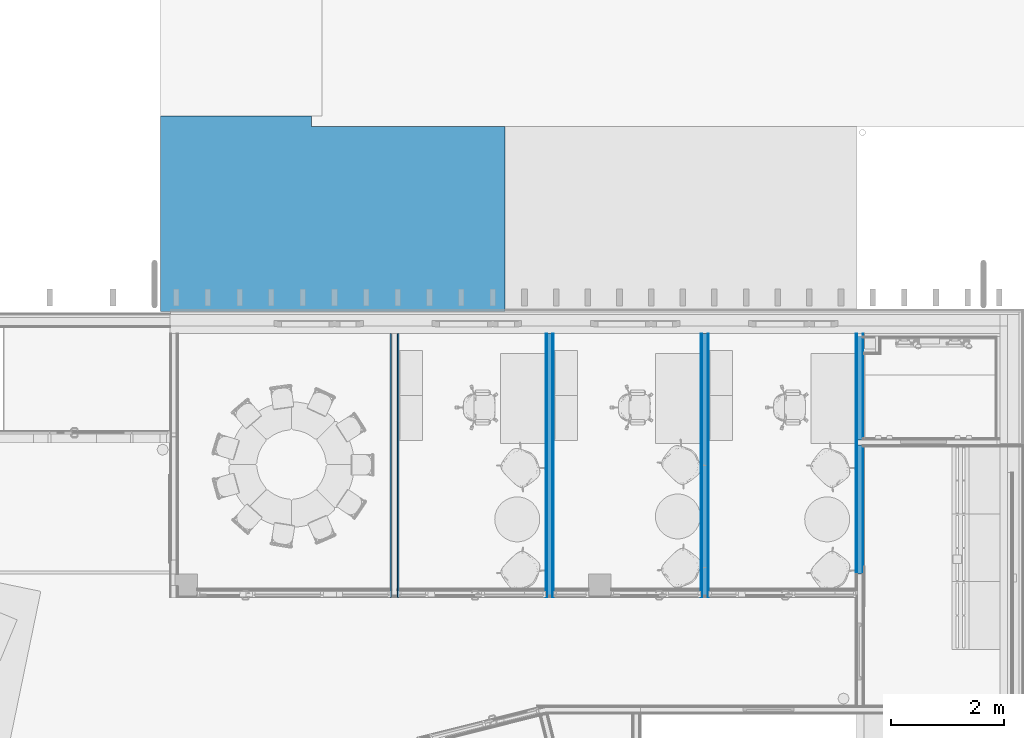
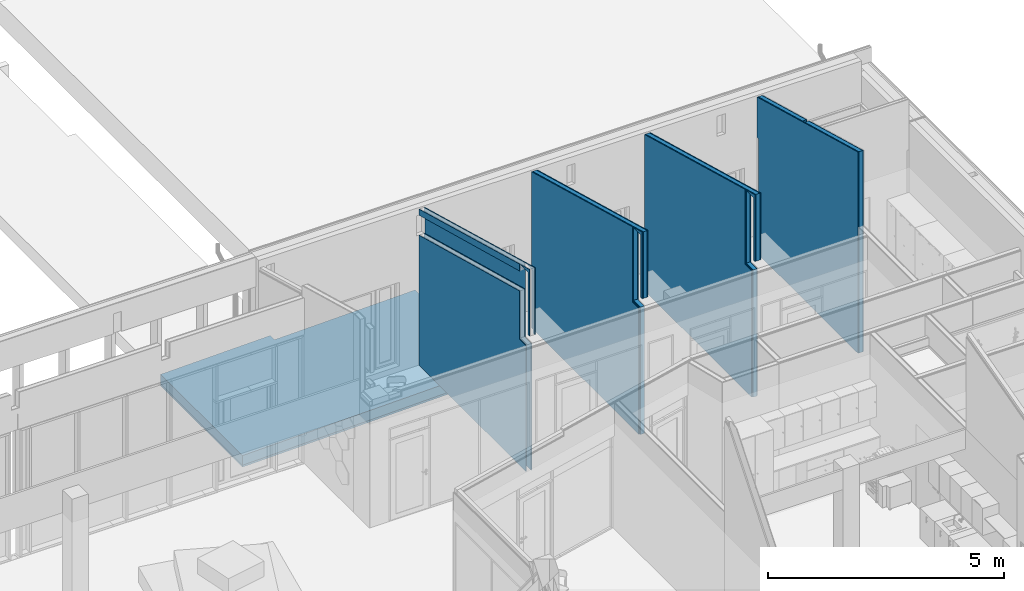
# One storey, part 87 of 153: 19 building element parts, 5 elements without a shape of their own.
"""IFC2X3 building model written with IfcOpenShell, lengths in millimetres."""

from ifc_helpers import new_model, entity, si_unit, converted_unit, derived_unit, money_unit, direction, frame, origin_with_axes, place, context, subcontext, project, spatial, faceted_brep, material, type_object, element, aggregate, save


model = new_model("IFC2X3")

# Units and contexts
model_context = context("Model", 3, precision=0.01, world=origin_with_axes(), true_north=direction((0.0, 1.0)))
body_context = subcontext(model_context, "Body", "Model", "MODEL_VIEW")
ifc_project = project(units=[si_unit("LENGTHUNIT", "METRE", prefix="MILLI"), si_unit("AREAUNIT", "SQUARE_METRE"), si_unit("VOLUMEUNIT", "CUBIC_METRE"), converted_unit("PLANEANGLEUNIT", "DEGREE", entity("IfcPlaneAngleMeasure", 0.0174532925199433), si_unit("PLANEANGLEUNIT", "RADIAN"), dimensions=[0, 0, 0, 0, 0, 0, 0]), money_unit("EUR"), converted_unit("TIMEUNIT", "Year", entity("IfcTimeMeasure", 31557600.0), si_unit("TIMEUNIT", "SECOND"), dimensions=[0, 0, 1, 0, 0, 0, 0]), si_unit("MASSUNIT", "GRAM", prefix="KILO"), si_unit("THERMODYNAMICTEMPERATUREUNIT", "DEGREE_CELSIUS"), si_unit("LUMINOUSINTENSITYUNIT", "LUMEN"), si_unit("ENERGYUNIT", "JOULE", prefix="MEGA"), derived_unit("THERMALCONDUCTANCEUNIT", [(si_unit("POWERUNIT", "WATT"), 1), (si_unit("LENGTHUNIT", "METRE"), -1), (si_unit("THERMODYNAMICTEMPERATUREUNIT", "KELVIN"), -1)]), derived_unit("SPECIFICHEATCAPACITYUNIT", [(si_unit("ENERGYUNIT", "JOULE"), 1), (si_unit("MASSUNIT", "GRAM", prefix="KILO"), -1), (si_unit("THERMODYNAMICTEMPERATUREUNIT", "KELVIN"), -1)]), derived_unit("MASSDENSITYUNIT", [(si_unit("MASSUNIT", "GRAM", prefix="KILO"), 1), (si_unit("VOLUMEUNIT", "CUBIC_METRE"), -1)])], contexts=[model_context])

# Site, building, storey
site_placement = place(None, frame((0.0, 0.0, 8650.0), z_axis=(0.0, 0.0, 1.0), x_axis=(1.0, 0.0, 0.0)))
site = spatial("IfcSite", under=ifc_project, at=site_placement, Name="43301:001:0844", CompositionType="ELEMENT")
building_placement = place(site_placement, origin_with_axes())
building = spatial("IfcBuilding", under=site, at=building_placement, Name="Kuressaare Ametikooli tuulikute mehaanikute õppekorpus", CompositionType="ELEMENT")
storey_placement = place(building_placement, frame((0.0, 0.0, 4100.0), z_axis=(0.0, 0.0, 1.0), x_axis=(1.0, 0.0, 0.0)))
storey = spatial("IfcBuildingStorey", under=building, at=storey_placement, Name="2.korrus", CompositionType="ELEMENT", Elevation=4100.0)

# Wall, building element parts
wall_type = type_object("IfcWallType", Name="SS-2.2 147", PredefinedType="NOTDEFINED")
wall_1_placement = place(storey_placement, frame((122344.0683571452, 23561.0689239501, 0.0), z_axis=(0.0, 0.0, 1.0), x_axis=(0.0, 1.0, 0.0)))
wall_1 = element("IfcWall", 1, at=wall_1_placement, inside=storey, type_object=wall_type, Name="Sisesein")
ifc_material_1 = material(Name="Kipsplaat")
building_element_part_1_placement = place(wall_1_placement, origin_with_axes())
building_element_part_1 = element("IfcBuildingElementPart", 2, at=building_element_part_1_placement, material=ifc_material_1, Name="Kipsplaat", context=body_context, shape_type="Brep", body=[
    faceted_brep([(4683.000000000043, 25.99999999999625, 0.0), (4683.000000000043, 25.99999999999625, 3363.212438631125), (4683.000000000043, 13.00000000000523, 3363.212438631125), (4683.000000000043, 13.00000000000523, 0.0), (412.9994132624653, 25.99999999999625, 3275.712739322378), (413.0000000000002, 25.99999999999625, 4507.355061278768), (134.0000000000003, 25.99999999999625, 0.0), (134.0000000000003, 25.99999999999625, 3275.712739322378), (413.0000000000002, 13.00000000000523, 4507.355061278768), (412.999413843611, 13.00000000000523, 3275.712739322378), (134.0000000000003, 13.00000000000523, 3275.712739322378), (134.0000000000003, 13.00000000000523, 0.0)], [[[0, 1, 2, 3]], [[4, 5, 1, 0, 6, 7]], [[5, 8, 2, 1]], [[3, 2, 8, 9, 10, 11]], [[6, 0, 3, 11]], [[9, 8, 5, 4]], [[6, 11, 10, 7]], [[4, 7, 10, 9]]]),
    faceted_brep([(4683.000000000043, 25.99999999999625, 4037.106487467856), (4683.000000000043, 13.00000000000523, 4037.106486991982), (4683.000000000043, 13.00000000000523, 3880.850515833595), (4683.000000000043, 25.99999999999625, 3880.850515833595), (412.9937006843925, 12.99999999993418, 5203.806565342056), (412.9936933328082, 25.99999999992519, 5203.806567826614), (0.0, 25.99999999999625, 5316.649439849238), (0.0, 13.00000000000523, 5316.649439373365), (413.0000000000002, 13.00000000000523, 5024.993138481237), (413.0000000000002, 25.99999999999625, 5024.993138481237), (67.99320075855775, 25.99999999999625, 5203.804765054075), (67.99320075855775, 25.99999999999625, 3590.712739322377), (0.0, 25.99999999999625, 3590.712739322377), (0.0, 13.00000000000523, 3590.712739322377), (67.99320878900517, 13.00000000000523, 3590.712739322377), (67.99320878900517, 13.00000000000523, 5203.804765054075)], [[[0, 1, 2, 3]], [[4, 1, 0, 5, 6, 7]], [[1, 4, 8, 2]], [[9, 3, 2, 8]], [[5, 0, 3, 9]], [[6, 5, 10, 11, 12]], [[7, 6, 12, 13]], [[4, 7, 13, 14, 15]], [[5, 9, 8, 4]], [[15, 10, 5, 4]], [[10, 15, 14, 11]], [[13, 12, 11, 14]]]),
])
building_element_part_2_placement = place(wall_1_placement, origin_with_axes())
building_element_part_2 = element("IfcBuildingElementPart", 3, at=building_element_part_2_placement, material=ifc_material_1, Name="Kipsplaat", context=body_context, shape_type="Brep", body=[
    faceted_brep([(4683.000000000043, 13.00000000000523, 4037.106486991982), (4683.000000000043, 0.0, 4037.106486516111), (4683.000000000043, 0.0, 0.0), (4683.000000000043, 13.00000000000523, 0.0), (4683.000000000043, 13.00000000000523, 3363.212438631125), (4683.000000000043, 1.121785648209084, 3363.212438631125), (4683.000000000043, 1.121785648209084, 3880.850515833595), (4683.000000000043, 13.00000000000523, 3880.850515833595), (412.9937080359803, 0.0, 5203.806562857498), (412.9937006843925, 12.99999999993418, 5203.806565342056), (0.0, 13.00000000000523, 5316.649439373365), (0.0, 0.0, 5316.649438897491), (412.9994144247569, 0.0, 3260.712739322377), (146.9999999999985, 0.0, 3260.712739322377), (146.9999999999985, 0.0, 0.0), (146.9999999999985, 13.00000000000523, 0.0), (412.999413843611, 13.00000000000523, 3260.712739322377), (413.0000000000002, 13.00000000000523, 4507.355061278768), (146.9999999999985, 13.00000000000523, 3260.712739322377), (413.0000000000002, 1.121785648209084, 4507.355061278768), (413.0000000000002, 1.121785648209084, 5024.993138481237), (413.0000000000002, 13.00000000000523, 5024.993138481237), (67.99320878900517, 13.00000000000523, 5203.804765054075), (67.99320878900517, 13.00000000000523, 3590.712739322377), (0.0, 13.00000000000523, 3590.712739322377), (0.0, 0.0, 3590.712739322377), (67.99321681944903, 0.0, 3590.712739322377), (67.99321681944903, 0.0, 5203.804765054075)], [[[0, 1, 2, 3, 4, 5, 6, 7]], [[8, 1, 0, 9, 10, 11]], [[1, 8, 12, 13, 14, 2]], [[15, 3, 2, 14]], [[16, 17, 4, 3, 15, 18]], [[19, 5, 4, 17]], [[20, 6, 5, 19]], [[21, 7, 6, 20]], [[9, 0, 7, 21]], [[10, 9, 22, 23, 24]], [[11, 10, 24, 25]], [[8, 11, 25, 26, 27]], [[20, 19, 17, 16, 12, 8, 9, 21]], [[16, 18, 13, 12]], [[15, 14, 13, 18]], [[27, 22, 9, 8]], [[22, 27, 26, 23]], [[25, 24, 23, 26]]]),
])
building_element_part_3_placement = place(wall_1_placement, origin_with_axes())
building_element_part_3 = element("IfcBuildingElementPart", 4, at=building_element_part_3_placement, material=ifc_material_1, Name="Kipsplaat", context=body_context, shape_type="Brep", body=[
    faceted_brep([(4683.000000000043, 147.0000000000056, 0.0), (4683.000000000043, 147.0000021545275, 3363.212438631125), (4683.000000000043, 134.0000000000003, 3363.212438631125), (4683.000000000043, 134.0000000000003, 0.0), (412.9994078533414, 146.9999815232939, 3260.712739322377), (413.0000000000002, 146.9999815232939, 4507.355061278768), (146.9999999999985, 147.0000000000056, 0.0), (146.9999999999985, 146.9999816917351, 3260.712739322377), (413.0000000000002, 134.0000000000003, 4507.355061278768), (412.9994084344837, 134.0000000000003, 3260.712739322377), (146.9999999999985, 134.0000000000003, 3260.712739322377), (146.9999999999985, 134.0000000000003, 0.0)], [[[0, 1, 2, 3]], [[4, 5, 1, 0, 6, 7]], [[5, 8, 2, 1]], [[3, 2, 8, 9, 10, 11]], [[6, 0, 3, 11]], [[9, 8, 5, 4]], [[6, 11, 10, 7]], [[4, 7, 10, 9]]]),
    faceted_brep([(4683.000000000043, 147.000002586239, 4037.106491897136), (4683.000000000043, 134.0000000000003, 4037.106491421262), (4683.000000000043, 134.0000000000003, 3880.850515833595), (4683.000000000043, 147.0000024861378, 3880.850515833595), (412.9936322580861, 133.9999999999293, 5203.806588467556), (412.9936249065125, 146.9999815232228, 5203.80659095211), (0.0, 146.9999815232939, 5316.649444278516), (0.0, 134.0000000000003, 5316.649443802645), (413.0000000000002, 134.0000000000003, 5024.993138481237), (413.0000000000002, 146.9999815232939, 5024.993138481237), (67.9931260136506, 146.9999815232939, 5203.804765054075), (67.9931260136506, 146.9999815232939, 3590.712739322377), (0.0, 146.9999815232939, 3590.712739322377), (0.0, 134.0000000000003, 3590.712739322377), (67.9931340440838, 134.0000000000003, 3590.712739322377), (67.9931340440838, 134.0000000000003, 5203.804765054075)], [[[0, 1, 2, 3]], [[4, 1, 0, 5, 6, 7]], [[1, 4, 8, 2]], [[9, 3, 2, 8]], [[5, 0, 3, 9]], [[6, 5, 10, 11, 12]], [[7, 6, 12, 13]], [[4, 7, 13, 14, 15]], [[5, 9, 8, 4]], [[15, 10, 5, 4]], [[10, 15, 14, 11]], [[13, 12, 11, 14]]]),
])
aggregate(wall_1, [building_element_part_1, building_element_part_2, building_element_part_3])

wall_2_placement = place(storey_placement, frame((127858.0683571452, 28244.06892395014, 0.0), z_axis=(0.0, 0.0, 1.0), x_axis=(0.0, -1.0, 0.0)))
wall_2 = element("IfcWall", 5, at=wall_2_placement, inside=storey, type_object=wall_type, Name="Sisesein")
building_element_part_4_placement = place(wall_2_placement, origin_with_axes())
building_element_part_4 = element("IfcBuildingElementPart", 6, at=building_element_part_4_placement, material=ifc_material_1, Name="Kipsplaat", context=body_context, shape_type="Brep", body=[
    faceted_brep([(0.0, -13.00000000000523, 4037.106285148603), (0.0, 2.586247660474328e-06, 4037.10628467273), (0.0, 0.0, 0.0), (0.0, -13.00000000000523, 0.0), (4270.003173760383, 2.612196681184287e-06, 5203.805509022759), (4270.003181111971, -12.99999999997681, 5203.805511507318), (4683.000000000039, -13.00000000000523, 5316.649237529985), (4683.000000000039, -1.847669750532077e-05, 5316.649237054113), (4270.000339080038, 2.612168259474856e-06, 3260.712739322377), (4536.00000000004, 2.588350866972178e-06, 3260.712739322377), (4536.000000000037, 0.0, 0.0), (4536.000000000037, -13.00000000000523, 0.0), (4536.00000000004, -13.00000000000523, 3260.712739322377), (4270.000339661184, -13.00000000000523, 3260.712739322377), (4615.003385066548, -13.00000000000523, 5203.804765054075), (4615.003385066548, -13.00000000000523, 3590.712739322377), (4683.000000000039, -13.00000000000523, 3590.712739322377), (4683.000000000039, -1.847669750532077e-05, 3590.712739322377), (4615.0033770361, 2.612168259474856e-06, 3590.712739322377), (4615.0033770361, 2.612168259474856e-06, 5203.804765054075)], [[[0, 1, 2, 3]], [[4, 1, 0, 5, 6, 7]], [[1, 4, 8, 9, 10, 2]], [[3, 2, 10, 11]], [[5, 0, 3, 11, 12, 13]], [[6, 5, 14, 15, 16]], [[7, 6, 16, 17]], [[4, 7, 17, 18, 19]], [[5, 13, 8, 4]], [[12, 9, 8, 13]], [[10, 9, 12, 11]], [[14, 5, 4, 19]], [[19, 18, 15, 14]], [[16, 15, 18, 17]]]),
])
building_element_part_5_placement = place(wall_2_placement, origin_with_axes())
building_element_part_5 = element("IfcBuildingElementPart", 7, at=building_element_part_5_placement, material=ifc_material_1, Name="Kipsplaat", context=body_context, shape_type="Brep", body=[
    faceted_brep([(0.0, -25.99999999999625, 4037.106285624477), (0.0, -13.00000000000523, 4037.106285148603), (0.0, -13.00000000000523, 0.0), (0.0, -25.99999999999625, 0.0), (4270.003181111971, -12.99999999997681, 5203.805511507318), (4270.003188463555, -25.99999999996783, 5203.805513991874), (4683.000000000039, -25.99999999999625, 5316.649238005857), (4683.000000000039, -13.00000000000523, 5316.649237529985), (4270.000339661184, -13.00000000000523, 3275.712739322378), (4549.000000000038, -13.00000000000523, 3275.712739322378), (4549.000000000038, -13.00000000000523, 0.0), (4549.000000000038, -25.99999999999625, 0.0), (4549.000000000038, -25.99999999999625, 3275.712739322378), (4270.00034024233, -25.99999999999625, 3275.712739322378), (4615.003393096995, -25.99999999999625, 5203.804765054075), (4615.003393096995, -25.99999999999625, 3590.712739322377), (4683.000000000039, -25.99999999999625, 3590.712739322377), (4683.000000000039, -13.00000000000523, 3590.712739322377), (4615.003385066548, -13.00000000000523, 3590.712739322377), (4615.003385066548, -13.00000000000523, 5203.804765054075)], [[[0, 1, 2, 3]], [[4, 1, 0, 5, 6, 7]], [[1, 4, 8, 9, 10, 2]], [[3, 2, 10, 11]], [[5, 0, 3, 11, 12, 13]], [[6, 5, 14, 15, 16]], [[7, 6, 16, 17]], [[4, 7, 17, 18, 19]], [[5, 13, 8, 4]], [[12, 9, 8, 13]], [[10, 9, 12, 11]], [[14, 5, 4, 19]], [[19, 18, 15, 14]], [[16, 15, 18, 17]]]),
])
ifc_material_2 = material(Name="Soojustus - Mineraalvill pehme")
building_element_part_6_placement = place(wall_2_placement, origin_with_axes())
building_element_part_6 = element("IfcBuildingElementPart", 8, at=building_element_part_6_placement, material=ifc_material_2, Name="Soojustus - Mineraalvill pehme", context=body_context, shape_type="Brep", body=[
    faceted_brep([(0.0, -120.9999999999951, 4037.10628910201), (0.0, -25.99999999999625, 4037.106285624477), (0.0, -25.99999999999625, 0.0), (0.0, -120.9999999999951, 0.0), (4270.003188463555, -25.99999999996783, 5203.805513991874), (4270.003242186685, -120.9999999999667, 5203.805532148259), (4683.000000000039, -120.9999999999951, 5316.649241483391), (4683.000000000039, -25.99999999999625, 5316.649238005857), (4270.00034024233, -25.99999999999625, 3290.712739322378), (4562.000000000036, -25.99999999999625, 3290.712739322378), (4562.000000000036, -25.99999999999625, 0.0), (4562.000000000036, -120.9999999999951, 0.0), (4562.000000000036, -120.9999999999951, 3290.712739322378), (4270.000344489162, -120.9999999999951, 3290.712739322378), (4615.003451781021, -120.9999999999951, 5203.804765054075), (4615.003451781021, -120.9999999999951, 3590.712739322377), (4683.000000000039, -120.9999999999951, 3590.712739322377), (4683.000000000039, -25.99999999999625, 3590.712739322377), (4615.003393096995, -25.99999999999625, 3590.712739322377), (4615.003393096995, -25.99999999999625, 5203.804765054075)], [[[0, 1, 2, 3]], [[4, 1, 0, 5, 6, 7]], [[1, 4, 8, 9, 10, 2]], [[3, 2, 10, 11]], [[5, 0, 3, 11, 12, 13]], [[6, 5, 14, 15, 16]], [[7, 6, 16, 17]], [[4, 7, 17, 18, 19]], [[5, 13, 8, 4]], [[12, 9, 8, 13]], [[10, 9, 12, 11]], [[14, 5, 4, 19]], [[19, 18, 15, 14]], [[16, 15, 18, 17]]]),
])
building_element_part_7_placement = place(wall_2_placement, origin_with_axes())
building_element_part_7 = element("IfcBuildingElementPart", 9, at=building_element_part_7_placement, material=ifc_material_1, Name="Kipsplaat", context=body_context, shape_type="Brep", body=[
    faceted_brep([(0.0, -134.0000000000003, 4037.106289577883), (0.0, -120.9999999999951, 4037.106289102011), (0.0, -120.9999999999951, 0.0), (0.0, -134.0000000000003, 0.0), (4270.003242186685, -120.9999999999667, 5203.805532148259), (4270.003249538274, -133.9999999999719, 5203.805534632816), (4683.000000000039, -134.0000000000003, 5316.649241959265), (4683.000000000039, -120.9999999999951, 5316.649241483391), (4270.000344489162, -120.9999999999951, 3275.712739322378), (4549.000000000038, -120.9999999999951, 3275.712739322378), (4549.000000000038, -120.9999999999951, 0.0), (4549.000000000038, -134.0000000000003, 0.0), (4549.000000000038, -134.0000000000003, 3275.712739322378), (4270.000345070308, -134.0000000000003, 3275.712739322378), (4615.003459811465, -134.0000000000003, 5203.804765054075), (4615.003459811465, -134.0000000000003, 3590.712739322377), (4683.000000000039, -134.0000000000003, 3590.712739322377), (4683.000000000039, -120.9999999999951, 3590.712739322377), (4615.003451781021, -120.9999999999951, 3590.712739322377), (4615.003451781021, -120.9999999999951, 5203.804765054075)], [[[0, 1, 2, 3]], [[4, 1, 0, 5, 6, 7]], [[1, 4, 8, 9, 10, 2]], [[3, 2, 10, 11]], [[5, 0, 3, 11, 12, 13]], [[6, 5, 14, 15, 16]], [[7, 6, 16, 17]], [[4, 7, 17, 18, 19]], [[5, 13, 8, 4]], [[12, 9, 8, 13]], [[10, 9, 12, 11]], [[14, 5, 4, 19]], [[19, 18, 15, 14]], [[16, 15, 18, 17]]]),
])
building_element_part_8_placement = place(wall_2_placement, origin_with_axes())
building_element_part_8 = element("IfcBuildingElementPart", 10, at=building_element_part_8_placement, material=ifc_material_1, Name="Kipsplaat", context=body_context, shape_type="Brep", body=[
    faceted_brep([(0.0, -147.0000000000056, 4037.106290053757), (0.0, -134.0000000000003, 4037.106289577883), (0.0, -134.0000000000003, 0.0), (0.0, -147.0000000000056, 0.0), (4270.003249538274, -133.9999999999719, 5203.805534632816), (4270.003256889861, -146.9999999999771, 5203.805537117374), (4683.000000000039, -147.0000000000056, 5316.649242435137), (4683.000000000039, -134.0000000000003, 5316.649241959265), (4270.000345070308, -134.0000000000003, 3260.712739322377), (4536.00000000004, -134.0000000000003, 3260.712739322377), (4536.000000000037, -134.0000000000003, 0.0), (4536.000000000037, -147.0000000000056, 0.0), (4536.00000000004, -147.0000000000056, 3260.712739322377), (4270.000345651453, -147.0000000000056, 3260.712739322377), (4615.003467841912, -147.0000000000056, 5203.804765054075), (4615.003467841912, -147.0000000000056, 3590.712739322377), (4683.000000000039, -147.0000000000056, 3590.712739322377), (4683.000000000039, -134.0000000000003, 3590.712739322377), (4615.003459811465, -134.0000000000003, 3590.712739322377), (4615.003459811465, -134.0000000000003, 5203.804765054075)], [[[0, 1, 2, 3]], [[4, 1, 0, 5, 6, 7]], [[1, 4, 8, 9, 10, 2]], [[3, 2, 10, 11]], [[5, 0, 3, 11, 12, 13]], [[6, 5, 14, 15, 16]], [[7, 6, 16, 17]], [[4, 7, 17, 18, 19]], [[5, 13, 8, 4]], [[12, 9, 8, 13]], [[10, 9, 12, 11]], [[14, 5, 4, 19]], [[19, 18, 15, 14]], [[16, 15, 18, 17]]]),
])
aggregate(wall_2, [building_element_part_4, building_element_part_5, building_element_part_6, building_element_part_7, building_element_part_8])

wall_3_placement = place(storey_placement, frame((125101.0683571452, 28244.06892395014, 0.0), z_axis=(0.0, 0.0, 1.0), x_axis=(0.0, -1.0, 0.0)))
wall_3 = element("IfcWall", 11, at=wall_3_placement, inside=storey, type_object=wall_type, Name="Sisesein")
building_element_part_9_placement = place(wall_3_placement, origin_with_axes())
building_element_part_9 = element("IfcBuildingElementPart", 12, at=building_element_part_9_placement, material=ifc_material_1, Name="Kipsplaat", context=body_context, shape_type="Brep", body=[
    faceted_brep([(0.0, -13.00000000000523, 4037.106386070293), (0.0, 2.586247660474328e-06, 4037.10638559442), (0.0, 0.0, 0.0), (0.0, -13.00000000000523, 0.0), (4270.004732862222, 2.612210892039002e-06, 5203.806035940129), (4270.004740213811, -12.9999999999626, 5203.806038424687), (4683.000000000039, -13.00000000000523, 5316.649338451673), (4683.000000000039, -1.847669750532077e-05, 5316.649337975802), (4270.000462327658, 2.612168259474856e-06, 3260.712739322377), (4536.00000000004, 2.588350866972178e-06, 3260.712739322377), (4536.00000000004, 0.0, 0.0), (4536.00000000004, -13.00000000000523, 0.0), (4536.00000000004, -13.00000000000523, 3260.712739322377), (4270.000462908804, -13.00000000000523, 3260.712739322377), (4615.005088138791, -13.00000000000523, 5203.804765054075), (4615.005088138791, -13.00000000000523, 3590.712739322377), (4683.000000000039, -13.00000000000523, 3590.712739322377), (4683.000000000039, -1.847669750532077e-05, 3590.712739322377), (4615.005080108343, 2.612168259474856e-06, 3590.712739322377), (4615.005080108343, 2.612168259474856e-06, 5203.804765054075)], [[[0, 1, 2, 3]], [[4, 1, 0, 5, 6, 7]], [[1, 4, 8, 9, 10, 2]], [[3, 2, 10, 11]], [[5, 0, 3, 11, 12, 13]], [[6, 5, 14, 15, 16]], [[7, 6, 16, 17]], [[4, 7, 17, 18, 19]], [[5, 13, 8, 4]], [[12, 9, 8, 13]], [[10, 9, 12, 11]], [[14, 5, 4, 19]], [[19, 18, 15, 14]], [[16, 15, 18, 17]]]),
])
building_element_part_10_placement = place(wall_3_placement, origin_with_axes())
building_element_part_10 = element("IfcBuildingElementPart", 13, at=building_element_part_10_placement, material=ifc_material_1, Name="Kipsplaat", context=body_context, shape_type="Brep", body=[
    faceted_brep([(0.0, -25.99999999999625, 4037.106386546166), (0.0, -13.00000000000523, 4037.106386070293), (0.0, -13.00000000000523, 0.0), (0.0, -25.99999999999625, 0.0), (4270.004740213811, -12.9999999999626, 5203.806038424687), (4270.004747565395, -25.99999999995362, 5203.806040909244), (4683.000000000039, -25.99999999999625, 5316.649338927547), (4683.000000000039, -13.00000000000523, 5316.649338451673), (4270.000462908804, -13.00000000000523, 3275.712739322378), (4549.000000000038, -13.00000000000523, 3275.712739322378), (4549.000000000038, -13.00000000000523, 0.0), (4549.000000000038, -25.99999999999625, 0.0), (4549.000000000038, -25.99999999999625, 3275.712739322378), (4270.00046348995, -25.99999999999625, 3275.712739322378), (4615.005096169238, -25.99999999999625, 5203.804765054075), (4615.005096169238, -25.99999999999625, 3590.712739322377), (4683.000000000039, -25.99999999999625, 3590.712739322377), (4683.000000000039, -13.00000000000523, 3590.712739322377), (4615.005088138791, -13.00000000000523, 3590.712739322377), (4615.005088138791, -13.00000000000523, 5203.804765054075)], [[[0, 1, 2, 3]], [[4, 1, 0, 5, 6, 7]], [[1, 4, 8, 9, 10, 2]], [[3, 2, 10, 11]], [[5, 0, 3, 11, 12, 13]], [[6, 5, 14, 15, 16]], [[7, 6, 16, 17]], [[4, 7, 17, 18, 19]], [[5, 13, 8, 4]], [[12, 9, 8, 13]], [[10, 9, 12, 11]], [[14, 5, 4, 19]], [[19, 18, 15, 14]], [[16, 15, 18, 17]]]),
])
building_element_part_11_placement = place(wall_3_placement, origin_with_axes())
building_element_part_11 = element("IfcBuildingElementPart", 14, at=building_element_part_11_placement, material=ifc_material_2, Name="Soojustus - Mineraalvill pehme", context=body_context, shape_type="Brep", body=[
    faceted_brep([(0.0, -120.9999999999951, 4037.1063900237), (0.0, -25.99999999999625, 4037.106386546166), (0.0, -25.99999999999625, 0.0), (0.0, -120.9999999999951, 0.0), (4270.004747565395, -25.99999999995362, 5203.806040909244), (4270.004801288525, -120.9999999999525, 5203.806059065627), (4683.000000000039, -120.9999999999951, 5316.649342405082), (4683.000000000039, -25.99999999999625, 5316.649338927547), (4270.00046348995, -25.99999999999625, 3290.712739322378), (4562.000000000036, -25.99999999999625, 3290.712739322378), (4562.000000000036, -25.99999999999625, 0.0), (4562.000000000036, -120.9999999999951, 0.0), (4562.000000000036, -120.9999999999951, 3290.712739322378), (4270.000467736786, -120.9999999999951, 3290.712739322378), (4615.005154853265, -120.9999999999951, 5203.804765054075), (4615.005154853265, -120.9999999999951, 3590.712739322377), (4683.000000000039, -120.9999999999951, 3590.712739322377), (4683.000000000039, -25.99999999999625, 3590.712739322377), (4615.005096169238, -25.99999999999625, 3590.712739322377), (4615.005096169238, -25.99999999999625, 5203.804765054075)], [[[0, 1, 2, 3]], [[4, 1, 0, 5, 6, 7]], [[1, 4, 8, 9, 10, 2]], [[3, 2, 10, 11]], [[5, 0, 3, 11, 12, 13]], [[6, 5, 14, 15, 16]], [[7, 6, 16, 17]], [[4, 7, 17, 18, 19]], [[5, 13, 8, 4]], [[12, 9, 8, 13]], [[10, 9, 12, 11]], [[14, 5, 4, 19]], [[19, 18, 15, 14]], [[16, 15, 18, 17]]]),
])
building_element_part_12_placement = place(wall_3_placement, origin_with_axes())
building_element_part_12 = element("IfcBuildingElementPart", 15, at=building_element_part_12_placement, material=ifc_material_1, Name="Kipsplaat", context=body_context, shape_type="Brep", body=[
    faceted_brep([(0.0, -134.0000000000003, 4037.106390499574), (0.0, -120.9999999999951, 4037.1063900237), (0.0, -120.9999999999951, 0.0), (0.0, -134.0000000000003, 0.0), (4270.004801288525, -120.9999999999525, 5203.806059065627), (4270.004808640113, -133.9999999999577, 5203.806061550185), (4683.000000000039, -134.0000000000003, 5316.649342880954), (4683.000000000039, -120.9999999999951, 5316.64934240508), (4270.000467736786, -120.9999999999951, 3275.712739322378), (4549.000000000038, -120.9999999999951, 3275.712739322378), (4549.000000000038, -120.9999999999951, 0.0), (4549.000000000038, -134.0000000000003, 0.0), (4549.000000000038, -134.0000000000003, 3275.712739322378), (4270.000468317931, -134.0000000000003, 3275.712739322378), (4615.005162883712, -134.0000000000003, 5203.804765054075), (4615.005162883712, -134.0000000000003, 3590.712739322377), (4683.000000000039, -134.0000000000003, 3590.712739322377), (4683.000000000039, -120.9999999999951, 3590.712739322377), (4615.005154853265, -120.9999999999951, 3590.712739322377), (4615.005154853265, -120.9999999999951, 5203.804765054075)], [[[0, 1, 2, 3]], [[4, 1, 0, 5, 6, 7]], [[1, 4, 8, 9, 10, 2]], [[3, 2, 10, 11]], [[5, 0, 3, 11, 12, 13]], [[6, 5, 14, 15, 16]], [[7, 6, 16, 17]], [[4, 7, 17, 18, 19]], [[5, 13, 8, 4]], [[12, 9, 8, 13]], [[10, 9, 12, 11]], [[14, 5, 4, 19]], [[19, 18, 15, 14]], [[16, 15, 18, 17]]]),
])
building_element_part_13_placement = place(wall_3_placement, origin_with_axes())
building_element_part_13 = element("IfcBuildingElementPart", 16, at=building_element_part_13_placement, material=ifc_material_1, Name="Kipsplaat", context=body_context, shape_type="Brep", body=[
    faceted_brep([(0.0, -147.0000000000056, 4037.106390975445), (0.0, -134.0000000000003, 4037.106390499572), (0.0, -134.0000000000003, 0.0), (0.0, -147.0000000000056, 0.0), (4270.004808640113, -133.9999999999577, 5203.806061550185), (4270.004815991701, -146.9999999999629, 5203.806064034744), (4683.000000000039, -147.0000000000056, 5316.649343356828), (4683.000000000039, -134.0000000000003, 5316.649342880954), (4270.000468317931, -134.0000000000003, 3260.712739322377), (4536.00000000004, -134.0000000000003, 3260.712739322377), (4536.00000000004, -134.0000000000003, 0.0), (4536.00000000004, -147.0000000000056, 0.0), (4536.00000000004, -147.0000000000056, 3260.712739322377), (4270.000468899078, -147.0000000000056, 3260.712739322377), (4615.005170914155, -147.0000000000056, 5203.804765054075), (4615.005170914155, -147.0000000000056, 3590.712739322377), (4683.000000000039, -147.0000000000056, 3590.712739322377), (4683.000000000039, -134.0000000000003, 3590.712739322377), (4615.005162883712, -134.0000000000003, 3590.712739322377), (4615.005162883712, -134.0000000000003, 5203.804765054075)], [[[0, 1, 2, 3]], [[4, 1, 0, 5, 6, 7]], [[1, 4, 8, 9, 10, 2]], [[3, 2, 10, 11]], [[5, 0, 3, 11, 12, 13]], [[6, 5, 14, 15, 16]], [[7, 6, 16, 17]], [[4, 7, 17, 18, 19]], [[5, 13, 8, 4]], [[12, 9, 8, 13]], [[10, 9, 12, 11]], [[14, 5, 4, 19]], [[19, 18, 15, 14]], [[16, 15, 18, 17]]]),
])
aggregate(wall_3, [building_element_part_9, building_element_part_10, building_element_part_11, building_element_part_12, building_element_part_13])

# Roof, building element parts
roof_placement = place(storey_placement, frame((124233.9258793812, 31928.82711946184, -1295.039384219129), z_axis=(0.0, 0.0, 1.0), x_axis=(0.0, -1.0, 0.0)))
roof = element("IfcRoof", 17, at=roof_placement, inside=storey, Name="KL1", ShapeType="NOTDEFINED")
ifc_material_3 = material(Name="Soojustus - Mineraalvill jäik")
building_element_part_14_placement = place(roof_placement, origin_with_axes())
building_element_part_14 = element("IfcBuildingElementPart", 18, at=building_element_part_14_placement, material=ifc_material_3, Name="Soojustus - Mineraalvill jäik", context=body_context, shape_type="Brep", body=[
    faceted_brep([(0.0, 0.0, 298.0894738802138), (-0.0001663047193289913, -3435.933406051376, 213.8855488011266), (-180.0001374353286, -3435.933417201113, 213.8855485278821), (-179.9999711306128, -6120.736182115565, 148.0894738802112), (3288.253370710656, -6120.736182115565, 148.0894738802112), (3288.253370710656, 0.0, 298.0894738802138), (6.115286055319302e-08, 3.238795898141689e-07, 50.01501240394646), (-0.0001665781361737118, -3435.93340585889, -34.18891267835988), (-180.0001367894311, -3435.933417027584, -34.18891295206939), (-179.999970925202, -6120.736181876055, -99.98498759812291), (3288.253371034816, -6120.736181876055, -99.98498759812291), (3288.253371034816, 3.238795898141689e-07, 50.01501240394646)], [[[0, 1, 2, 3, 4, 5]], [[0, 6, 7, 1]], [[1, 7, 8, 2]], [[2, 8, 9, 3]], [[3, 9, 10, 4]], [[4, 10, 11, 5]], [[5, 11, 6, 0]], [[6, 11, 10, 9, 8, 7]]]),
])
building_element_part_15_placement = place(roof_placement, origin_with_axes())
building_element_part_15 = element("IfcBuildingElementPart", 19, at=building_element_part_15_placement, material=ifc_material_3, Name="Soojustus - Mineraalvill jäik", context=body_context, shape_type="Brep", body=[
    faceted_brep([(3288.253371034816, 3.238795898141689e-07, 50.01501240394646), (3288.253371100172, 3.891784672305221e-07, -4.078199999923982e-07), (7.348077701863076e-08, 3.891784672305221e-07, -4.078199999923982e-07), (6.115286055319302e-08, 3.238795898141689e-07, 50.01501240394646), (3288.253371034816, -6120.736181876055, -99.98498759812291), (3288.253371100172, -6120.736181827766, -150.0000004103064), (-179.9999708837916, -6120.736181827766, -150.0000004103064), (-180.0001366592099, -3435.933416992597, -84.20392576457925), (-0.000166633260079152, -3435.93340582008, -84.20392549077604), (-0.0001665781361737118, -3435.93340585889, -34.18891267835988), (-180.0001367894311, -3435.933417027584, -34.18891295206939), (-179.999970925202, -6120.736181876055, -99.98498759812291)], [[[0, 1, 2, 3]], [[4, 5, 1, 0]], [[1, 5, 6, 7, 8, 2]], [[3, 2, 8, 9]], [[3, 9, 10, 11, 4, 0]], [[11, 6, 5, 4]], [[10, 7, 6, 11]], [[9, 8, 7, 10]]]),
])
aggregate(roof, [building_element_part_14, building_element_part_15])

# Wall, building element parts
wall_4_placement = place(storey_placement, frame((130468.0683571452, 23974.06870154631, 0.0), z_axis=(0.0, 0.0, 1.0), x_axis=(0.0, 1.0, 0.0)))
wall_4 = element("IfcWall", 20, at=wall_4_placement, inside=storey, type_object=wall_type, Name="Sisesein")
building_element_part_16_placement = place(wall_4_placement, origin_with_axes())
building_element_part_16 = element("IfcBuildingElementPart", 21, at=building_element_part_16_placement, material=ifc_material_1, Name="Kipsplaat", context=body_context, shape_type="Brep", body=[
    faceted_brep([(4270.000222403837, 2.514042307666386e-06, 4037.106189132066), (4270.000222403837, -13.00000000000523, 4037.106188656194), (4270.000222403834, -13.00000000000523, 3000.0), (4270.000222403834, 0.0, 3000.0), (0.0, -13.00000000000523, 5203.804606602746), (0.0, 0.0, 5203.80460707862), (0.0, -13.00000000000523, 0.0), (4220.000222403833, -13.00000000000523, 0.0), (4220.000222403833, -13.00000000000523, 3000.0), (4220.000222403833, 0.0, 3000.0), (4220.000222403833, 0.0, 0.0), (0.0, 0.0, 0.0)], [[[0, 1, 2, 3]], [[4, 1, 0, 5]], [[1, 4, 6, 7, 8, 2]], [[9, 3, 2, 8]], [[5, 0, 3, 9, 10, 11]], [[4, 5, 11, 6]], [[11, 10, 7, 6]], [[9, 8, 7, 10]]]),
])
building_element_part_17_placement = place(wall_4_placement, origin_with_axes())
building_element_part_17 = element("IfcBuildingElementPart", 22, at=building_element_part_17_placement, material=ifc_material_1, Name="Kipsplaat", context=body_context, shape_type="Brep", body=[
    faceted_brep([(4270.000222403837, -13.00000000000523, 4037.106188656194), (4270.000222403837, -26.00000000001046, 4037.106188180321), (4270.000222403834, -26.00000000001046, 3000.0), (4270.000222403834, -13.00000000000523, 3000.0), (0.0, -26.00000000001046, 5203.804606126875), (0.0, -13.00000000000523, 5203.804606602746), (0.0, -26.00000000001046, 0.0), (4220.000222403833, -26.00000000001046, 0.0), (4220.000222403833, -26.00000000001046, 3000.0), (4220.000222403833, -13.00000000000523, 3000.0), (4220.000222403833, -13.00000000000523, 0.0), (0.0, -13.00000000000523, 0.0)], [[[0, 1, 2, 3]], [[4, 1, 0, 5]], [[1, 4, 6, 7, 8, 2]], [[9, 3, 2, 8]], [[5, 0, 3, 9, 10, 11]], [[4, 5, 11, 6]], [[11, 10, 7, 6]], [[9, 8, 7, 10]]]),
])
building_element_part_18_placement = place(wall_4_placement, origin_with_axes())
building_element_part_18 = element("IfcBuildingElementPart", 23, at=building_element_part_18_placement, material=ifc_material_2, Name="Soojustus - Mineraalvill pehme", context=body_context, shape_type="Brep", body=[
    faceted_brep([(4270.000222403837, -26.00000000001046, 4037.106188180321), (4270.000222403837, -121.0000000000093, 4037.106184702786), (4270.000222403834, -121.0000000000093, 3000.0), (4270.000222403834, -26.00000000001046, 3000.0), (2384.000222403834, -121.0000000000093, 4552.420728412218), (2384.000222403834, -26.00000000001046, 4552.420731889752), (2384.000222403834, -121.0000000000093, 0.0), (4220.000222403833, -121.0000000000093, 0.0), (4220.000222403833, -121.0000000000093, 3000.0), (4220.000222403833, -26.00000000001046, 3000.0), (4220.000222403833, -26.00000000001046, 0.0), (2384.000222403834, -26.00000000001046, 0.0)], [[[0, 1, 2, 3]], [[4, 1, 0, 5]], [[1, 4, 6, 7, 8, 2]], [[9, 3, 2, 8]], [[5, 0, 3, 9, 10, 11]], [[4, 5, 11, 6]], [[11, 10, 7, 6]], [[9, 8, 7, 10]]]),
    faceted_brep([(2289.000222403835, -26.00000000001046, 4578.37772110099), (2289.000222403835, -121.0000000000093, 4578.377717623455), (2289.000222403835, -121.0000000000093, 0.0), (2289.000222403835, -26.00000000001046, 0.0), (0.0, -121.0000000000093, 5203.80460264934), (0.0, -26.00000000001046, 5203.804606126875), (0.0, -121.0000000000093, 0.0), (0.0, -26.00000000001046, 0.0)], [[[0, 1, 2, 3]], [[4, 1, 0, 5]], [[1, 4, 6, 2]], [[6, 7, 3, 2]], [[5, 0, 3, 7]], [[4, 5, 7, 6]]]),
])
building_element_part_19_placement = place(wall_4_placement, origin_with_axes())
building_element_part_19 = element("IfcBuildingElementPart", 24, at=building_element_part_19_placement, material=ifc_material_1, Name="Kipsplaat", context=body_context, shape_type="Brep", body=[
    faceted_brep([(4270.000222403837, -121.0000000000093, 4037.106184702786), (4270.000222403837, -133.9999999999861, 4037.106184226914), (4270.000222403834, -133.9999999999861, 3000.0), (4270.000222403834, -121.0000000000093, 3000.0), (2397.000222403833, -133.9999999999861, 4548.868718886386), (2397.000222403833, -121.0000000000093, 4548.868719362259), (2397.000222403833, -133.9999999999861, 0.0), (4207.000222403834, -133.9999999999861, 0.0), (4207.000222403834, -133.9999999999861, 3000.0), (4207.000222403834, -121.0000000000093, 3000.0), (4207.000222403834, -121.0000000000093, 0.0), (2397.000222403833, -121.0000000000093, 0.0)], [[[0, 1, 2, 3]], [[4, 1, 0, 5]], [[1, 4, 6, 7, 8, 2]], [[3, 2, 8, 9]], [[5, 0, 3, 9, 10, 11]], [[4, 5, 11, 6]], [[11, 10, 7, 6]], [[9, 8, 7, 10]]]),
    faceted_brep([(2276.000222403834, -121.0000000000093, 4581.929726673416), (2276.000222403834, -133.9999999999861, 4581.929726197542), (2276.000222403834, -133.9999999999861, 0.0), (2276.000222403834, -121.0000000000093, 0.0), (0.0, -133.9999999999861, 5203.804602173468), (0.0, -121.0000000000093, 5203.80460264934), (0.0, -133.9999999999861, 0.0), (0.0, -121.0000000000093, 0.0)], [[[0, 1, 2, 3]], [[4, 1, 0, 5]], [[1, 4, 6, 2]], [[6, 7, 3, 2]], [[5, 0, 3, 7]], [[4, 5, 7, 6]]]),
])
aggregate(wall_4, [building_element_part_16, building_element_part_17, building_element_part_18, building_element_part_19])

save(model, "model.ifc")
